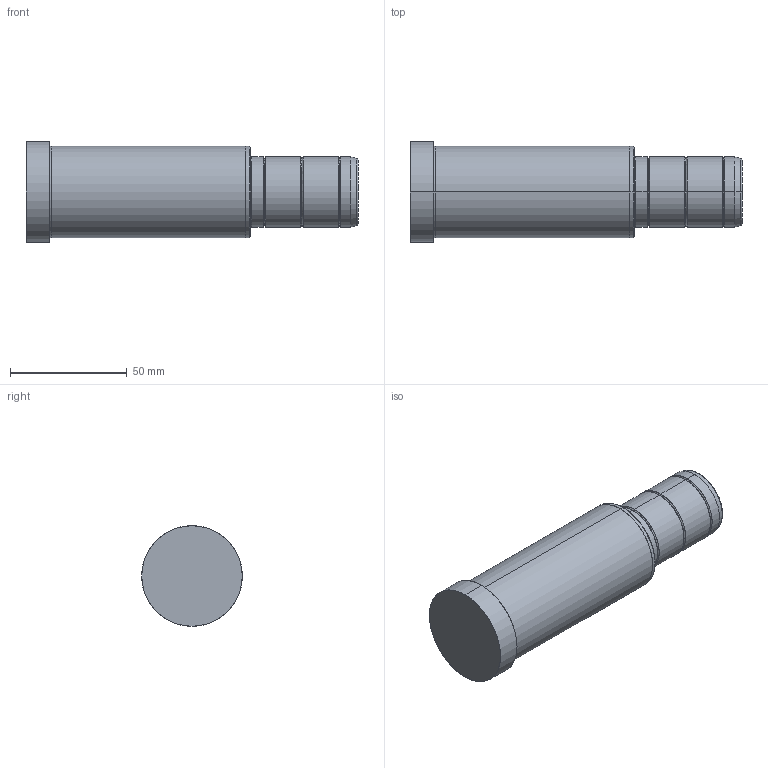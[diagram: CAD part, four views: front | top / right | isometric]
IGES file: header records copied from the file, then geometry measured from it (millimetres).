
Start section: SolidWorks IGES file using analytic representation for surfaces
Global section: file name: C:\Documents and Settings\kalite-mail\Desktop\IGS\D02\30\D02 - 30x96x46.IGS; native system: SolidWorks 2008; preprocessor: SolidWorks 2008; author: kalite-mail; date: 080617.093747; units: millimetre
Bounding box: 142 x 43 x 43 mm (x, y, z)
Surface area: 19138.9 mm2 (no closed solid volume)
Topology: 0 solids, 0 shells, 42 faces, 752 edges, 752 vertices
Faces by surface type: bspline 22, revolution 20
